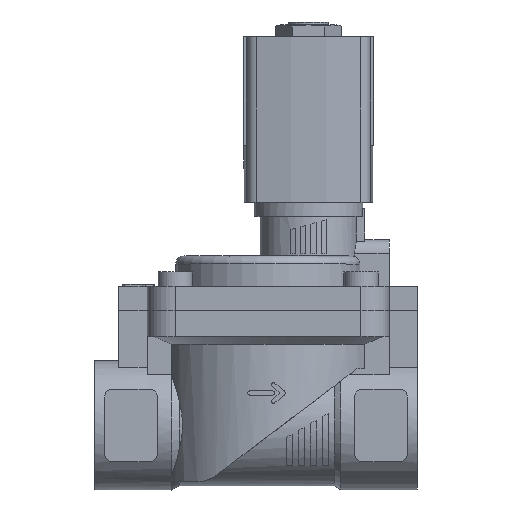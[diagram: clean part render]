
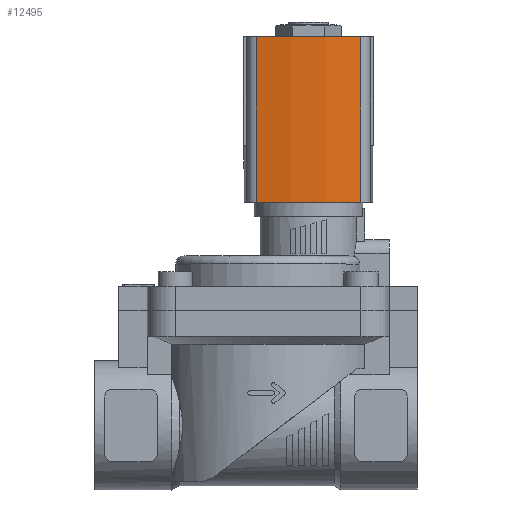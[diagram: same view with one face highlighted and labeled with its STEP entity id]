
A CAD part, top view. The second image highlights one B-rep face of the part: STEP entity #12495.
In plain terms, the highlighted cylindrical face has radius 60 mm (diameter 120 mm), a partial arc.
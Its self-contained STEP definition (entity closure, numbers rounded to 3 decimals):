
#237=CYLINDRICAL_SURFACE('',#13347,60.);
#1212=LINE('',#19127,#2272);
#1213=LINE('',#19131,#2273);
#2272=VECTOR('',#15844,1000.);
#2273=VECTOR('',#15849,1000.);
#4583=ORIENTED_EDGE('',*,*,#6573,.T.);
#4584=ORIENTED_EDGE('',*,*,#6574,.F.);
#4585=ORIENTED_EDGE('',*,*,#5859,.F.);
#4586=ORIENTED_EDGE('',*,*,#6572,.T.);
#5859=EDGE_CURVE('',#7102,#7103,#7824,.T.);
#6572=EDGE_CURVE('',#7102,#7608,#1212,.T.);
#6573=EDGE_CURVE('',#7608,#7609,#7918,.T.);
#6574=EDGE_CURVE('',#7103,#7609,#1213,.T.);
#7102=VERTEX_POINT('',#17781);
#7103=VERTEX_POINT('',#17783);
#7608=VERTEX_POINT('',#19126);
#7609=VERTEX_POINT('',#19130);
#7824=CIRCLE('',#13127,60.);
#7918=CIRCLE('',#13348,60.);
#8345=EDGE_LOOP('',(#4583,#4584,#4585,#4586));
#8927=FACE_BOUND('',#8345,.T.);
#12495=ADVANCED_FACE('',(#8927),#237,.T.);
#13127=AXIS2_PLACEMENT_3D('',#17782,#14785,#14786);
#13347=AXIS2_PLACEMENT_3D('',#19128,#15845,#15846);
#13348=AXIS2_PLACEMENT_3D('',#19129,#15847,#15848);
#14785=DIRECTION('',(0.,1.,0.));
#14786=DIRECTION('',(1.,0.,0.));
#15844=DIRECTION('',(0.,-1.,0.));
#15845=DIRECTION('',(0.,-1.,0.));
#15846=DIRECTION('',(0.,0.,-1.));
#15847=DIRECTION('',(0.,1.,0.));
#15848=DIRECTION('',(1.,0.,0.));
#15849=DIRECTION('',(0.,-1.,0.));
#17781=CARTESIAN_POINT('',(19.078,15.,12.986));
#17782=CARTESIAN_POINT('',(-39.5,15.,0.));
#17783=CARTESIAN_POINT('',(19.078,15.,-12.986));
#19126=CARTESIAN_POINT('',(19.078,-26.,12.986));
#19127=CARTESIAN_POINT('',(19.078,15.,12.986));
#19128=CARTESIAN_POINT('',(-39.5,15.,0.));
#19129=CARTESIAN_POINT('',(-39.5,-26.,0.));
#19130=CARTESIAN_POINT('',(19.078,-26.,-12.986));
#19131=CARTESIAN_POINT('',(19.078,15.,-12.986));
